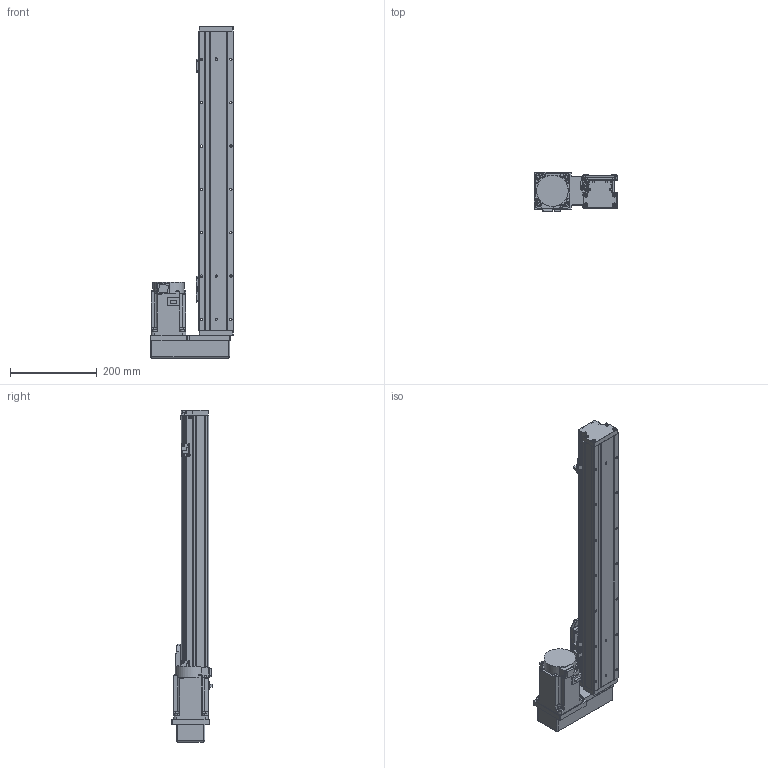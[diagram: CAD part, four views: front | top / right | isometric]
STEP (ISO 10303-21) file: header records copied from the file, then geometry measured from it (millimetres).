
FILE_DESCRIPTION (( 'STEP AP203' ), '1' );
FILE_NAME ('GTH8-500-BL-M75-C4.step', '2023-02-14T02:24:39', ( '微软用户' ), ( '微软中国' ), 'SwSTEP 2.0', 'SolidWorks 2020', '' );
FILE_SCHEMA (( 'CONFIG_CONTROL_DESIGN' ));
Length unit declared in the file: millimetre
Products named in the file (18): hg-kn73j_-s100; GTH80-006; GTH50-024; GTH8-500-BL-M75-C4; GTH80-013; GTH50-023; GBT 70.3-M3℅6; GBT96.1-2002 3×0.8; GTH80-022; BTH-M3X5X6; GTH80-001_500; GBT 70.1-M3℅6; CTHA86-015-3_CTHA86-015-4; GTH80-003; GBT 70.1-M4×16; CTHA86-035; GTH80-004; GTH80-028
Assembly tree (57 placements, depth 2):
  GTH8-500-BL-M75-C4
    GTH80-001_500
    GTH80-003
    GTH80-004
    GTH80-006
    GTH80-013
    GBT 70.3-M3℅6  x4
    GTH80-022
    GBT 70.1-M3℅6  x14
    GBT 70.1-M4×16  x8
    GTH80-028  x2
    GTH50-024  x3
    GTH50-023  x3
    GBT96.1-2002 3×0.8  x6
    BTH-M3X5X6  x8
    CTHA86-015-3_CTHA86-015-4
    CTHA86-035
    hg-kn73j_-s100
Bounding box: 193.5 x 92.3 x 766 mm (x, y, z)
Volume: 4534601.8 mm3; surface area: 471925.5 mm2
Topology: 59 solids, 59 shells, 2191 faces, 5082 edges, 3112 vertices
Faces by surface type: plane 1153, cylinder 623, cone 243, torus 158, sphere 12, bspline 2
Entity records: 39440 total; most frequent: CARTESIAN_POINT 6623, DIRECTION 6501, ORIENTED_EDGE 5974, EDGE_CURVE 2987, AXIS2_PLACEMENT_3D 2290, LINE 1921, VECTOR 1921, VERTEX_POINT 1887
